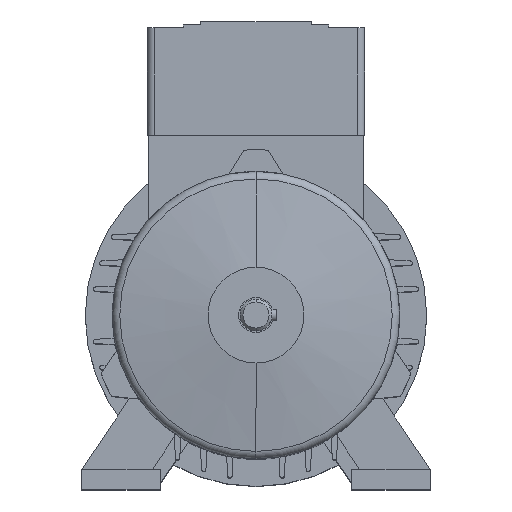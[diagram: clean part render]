
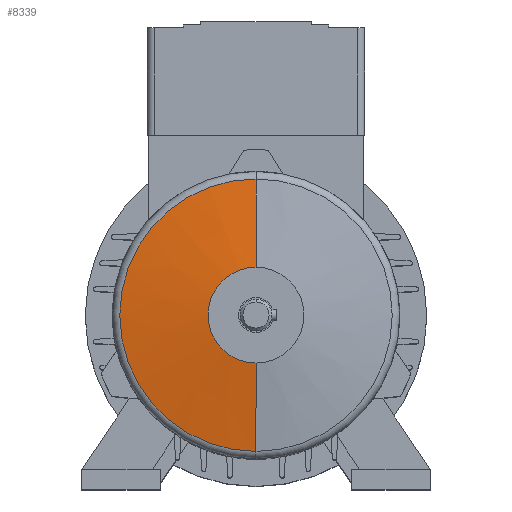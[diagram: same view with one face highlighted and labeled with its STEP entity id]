
A CAD part, top view. The second image highlights one B-rep face of the part: STEP entity #8339.
In plain terms, the highlighted conical face has half-angle 82 degrees and reference radius 31.709 mm.
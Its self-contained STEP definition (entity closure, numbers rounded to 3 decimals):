
#2791=CARTESIAN_POINT('',(0.,0.,16.725));
#2792=DIRECTION('',(0.,0.,1.));
#2793=DIRECTION('',(0.,1.,0.));
#2794=AXIS2_PLACEMENT_3D('',#2791,#2792,#2793);
#2806=DIRECTION('',(0.,-0.99,0.139));
#2807=VECTOR('',#2806,30.716);
#2808=CARTESIAN_POINT('',(0.,46.918,
16.725));
#2809=LINE('',#2808,#2807);
#2810=DIRECTION('',(0.,0.99,0.139));
#2811=VECTOR('',#2810,30.716);
#2812=CARTESIAN_POINT('',(0.,-46.918,
16.725));
#2813=LINE('',#2812,#2811);
#2842=CARTESIAN_POINT('',(0.,0.,21.));
#2843=DIRECTION('',(0.,0.,1.));
#2844=DIRECTION('',(0.,1.,0.));
#2845=AXIS2_PLACEMENT_3D('',#2842,#2843,#2844);
#3917=CARTESIAN_POINT('',(0.,16.5,21.));
#3919=VERTEX_POINT('',#3917);
#3925=CARTESIAN_POINT('',(0.,-16.5,21.));
#3927=VERTEX_POINT('',#3925);
#3984=CARTESIAN_POINT('',(0.,46.918,16.725));
#3985=CARTESIAN_POINT('',(0.,-46.918,
16.725));
#3986=VERTEX_POINT('',#3984);
#3987=VERTEX_POINT('',#3985);
#8325=CARTESIAN_POINT('',(0.,0.,18.863));
#8326=DIRECTION('',(0.,0.,-1.));
#8327=DIRECTION('',(0.,-1.,0.));
#8328=AXIS2_PLACEMENT_3D('',#8325,#8326,#8327);
#8329=CONICAL_SURFACE('',#8328,31.709,82.);
#8330=ORIENTED_EDGE('',*,*,#8315,.F.);
#8332=ORIENTED_EDGE('',*,*,#8331,.T.);
#8334=ORIENTED_EDGE('',*,*,#8333,.T.);
#8336=ORIENTED_EDGE('',*,*,#8335,.F.);
#8337=EDGE_LOOP('',(#8330,#8332,#8334,#8336));
#8338=FACE_OUTER_BOUND('',#8337,.F.);
#8339=ADVANCED_FACE('',(#8338),#8329,.T.);
#2795=CIRCLE('',#2794,46.918);
#2846=CIRCLE('',#2845,16.5);
#8315=EDGE_CURVE('',#3986,#3987,#2795,.T.);
#8331=EDGE_CURVE('',#3986,#3919,#2809,.T.);
#8333=EDGE_CURVE('',#3919,#3927,#2846,.T.);
#8335=EDGE_CURVE('',#3987,#3927,#2813,.T.);
